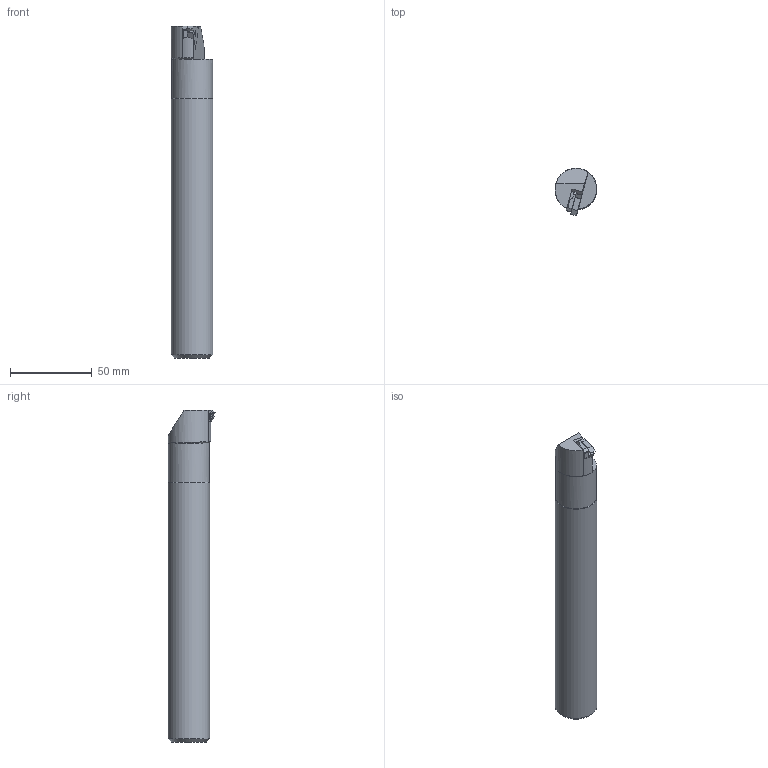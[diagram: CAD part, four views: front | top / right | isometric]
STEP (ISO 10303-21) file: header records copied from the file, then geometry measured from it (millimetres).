
FILE_DESCRIPTION (( 'STEP AP203' ), '1' );
FILE_NAME ('IRH100D-16.STEP', '2020-11-06T09:08:09', ( '' ), ( '' ), 'SwSTEP 2.0', 'SolidWorks 2015', '' );
FILE_SCHEMA (( 'CONFIG_CONTROL_DESIGN' ));
Length unit declared in the file: millimetre
Products named in the file (5): IRH100D-16; ATI16_ル遽; IRH100D-16_ル遽; IR16_ル遽
Assembly tree (4 placements, depth 3):
  IRH100D-16
    IRH100D-16
      IRH100D-16_ル遽
      ATI16_ル遽
      IR16_ル遽
Bounding box: 25.61 x 29.2 x 203.2 mm (x, y, z)
Volume: 98465.2 mm3; surface area: 17526.3 mm2
Topology: 3 solids, 3 shells, 58 faces, 145 edges, 93 vertices
Faces by surface type: plane 39, cylinder 13, cone 6
Full cylindrical faces by diameter (mm): 3.5 x1, 3.95 x1, 25 x1, 25.4 x1
Entity records: 2257 total; most frequent: CARTESIAN_POINT 377, DIRECTION 288, ORIENTED_EDGE 274, EDGE_CURVE 137, VECTOR 98, LINE 98, AXIS2_PLACEMENT_3D 95, VERTEX_POINT 92
